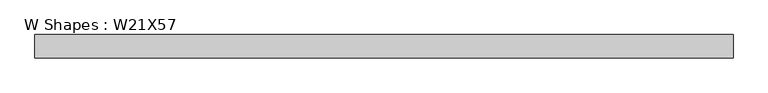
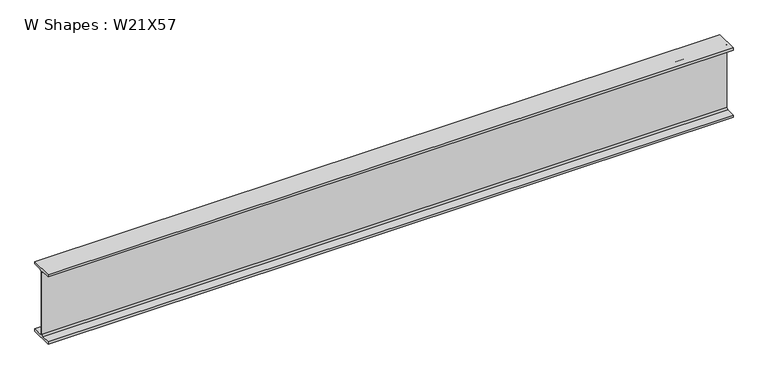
"""IFC4 building model written with IfcOpenShell, lengths in millimetres: beam geometry, W Shapes : W21X57."""

from ifc_helpers import new_model, si_unit, point, frame, frame_2d, origin, place, context, project, spatial, polyline, circle_curve, trimmed, segment, composite_curve, outline, extrude, source, transform, mapped, element, save


def w_shapes_w21x57_a1cec43f(model_context):
    return source(origin(), model_context, "Body", "SweptSolid", [
        extrude(outline(composite_curve([segment(polyline([(83.312, -251.46), (83.312, -267.97), (-83.312, -267.97), (-83.312, -251.46), (-17.8435, -251.46)]), True, "CONTINUOUS"), segment(trimmed(circle_curve(frame_2d((-17.8435, -238.76)), 12.7), [point((-17.8435, -251.46))], [point((-5.1435, -238.76))], True, "CARTESIAN"), True, "CONTINUOUS"), segment(polyline([(-5.1435, -238.76), (-5.1435, 238.76)]), True, "CONTINUOUS"), segment(trimmed(circle_curve(frame_2d((-17.8435, 238.76)), 12.7), [point((-5.1435, 238.76))], [point((-17.8435, 251.46))], True, "CARTESIAN"), True, "CONTINUOUS"), segment(polyline([(-17.8435, 251.46), (-83.312, 251.46), (-83.312, 267.97), (83.312, 267.97), (83.312, 251.46), (17.8435, 251.46)]), True, "CONTINUOUS"), segment(trimmed(circle_curve(frame_2d((17.8435, 238.76)), 12.7), [point((17.8435, 251.46))], [point((5.1435, 238.76))], True, "CARTESIAN"), True, "CONTINUOUS"), segment(polyline([(5.1435, 238.76), (5.1435, -238.76)]), True, "CONTINUOUS"), segment(trimmed(circle_curve(frame_2d((17.8435, -238.76)), 12.7), [point((5.1435, -238.76))], [point((17.8435, -251.46))], True, "CARTESIAN"), True, "CONTINUOUS"), segment(polyline([(17.8435, -251.46), (83.312, -251.46)]), True, "CONTINUOUS")], self_intersect=False)), frame((-2469.3901285, 0.0, 0.0), z_axis=(1.0, 0.0, 0.0), x_axis=(0.0, 1.0, 0.0)), (0.0, 0.0, 1.0), 5013.6498225),
    ])


if __name__ == "__main__":
    model = new_model("IFC4")
    model_context = context("Model", 3, world=origin())
    ifc_project = project(units=[si_unit("LENGTHUNIT", "METRE", prefix="MILLI")], contexts=[model_context])
    site = spatial("IfcSite", under=ifc_project)
    building = spatial("IfcBuilding", under=site)
    placement = place(None, origin())
    w_shapes_w21x57_shape = w_shapes_w21x57_a1cec43f(model_context)
    element("IfcBeam", 1, ObjectType="W Shapes : W21X57", at=placement, inside=building, context=model_context, shape_type="MappedRepresentation", body=[
        mapped(w_shapes_w21x57_shape, transform((0.0, 0.0, 0.0), x_axis=(1.0, 0.0, 0.0), y_axis=(0.0, 1.0, 0.0), z_axis=(0.0, 0.0, 1.0))),
    ])
    save(model, "model.ifc")
